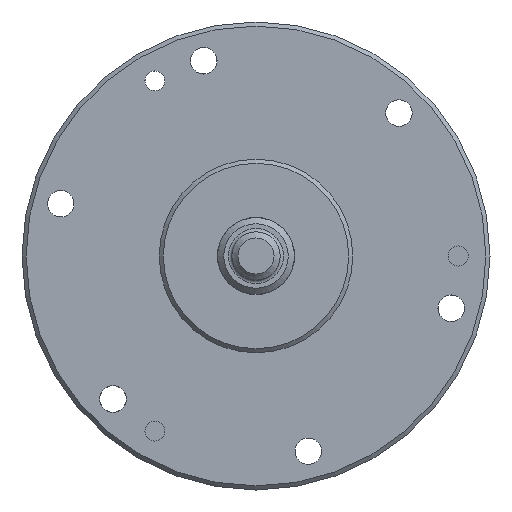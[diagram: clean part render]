
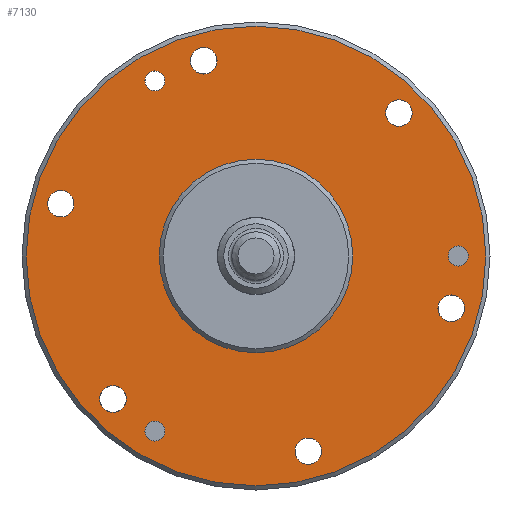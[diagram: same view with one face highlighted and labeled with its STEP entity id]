
A CAD part, left-side view. The second image highlights one B-rep face of the part: STEP entity #7130.
In plain terms, the highlighted planar face has unit normal (-1, 0, 0).
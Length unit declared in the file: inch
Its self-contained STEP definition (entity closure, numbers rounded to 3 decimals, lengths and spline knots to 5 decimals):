
#388=FACE_BOUND('',#1046,.T.);
#389=FACE_BOUND('',#1047,.T.);
#390=FACE_BOUND('',#1048,.T.);
#391=FACE_BOUND('',#1049,.T.);
#392=FACE_BOUND('',#1050,.T.);
#393=FACE_BOUND('',#1051,.T.);
#394=FACE_BOUND('',#1052,.T.);
#395=FACE_BOUND('',#1053,.T.);
#396=FACE_BOUND('',#1054,.T.);
#397=FACE_BOUND('',#1055,.T.);
#602=FACE_OUTER_BOUND('',#1045,.T.);
#1045=EDGE_LOOP('',(#5500));
#1046=EDGE_LOOP('',(#5501));
#1047=EDGE_LOOP('',(#5502));
#1048=EDGE_LOOP('',(#5503));
#1049=EDGE_LOOP('',(#5504));
#1050=EDGE_LOOP('',(#5505));
#1051=EDGE_LOOP('',(#5506));
#1052=EDGE_LOOP('',(#5507));
#1053=EDGE_LOOP('',(#5508));
#1054=EDGE_LOOP('',(#5509));
#1055=EDGE_LOOP('',(#5510));
#1397=CIRCLE('',#7567,0.06425);
#1401=CIRCLE('',#7573,0.06425);
#1405=CIRCLE('',#7579,0.06425);
#1407=CIRCLE('',#7582,0.06509);
#1409=CIRCLE('',#7585,0.06509);
#1411=CIRCLE('',#7588,0.06509);
#1413=CIRCLE('',#7591,0.04878);
#1415=CIRCLE('',#7594,0.04878);
#1417=CIRCLE('',#7597,0.04878);
#1437=CIRCLE('',#7627,1.12);
#1438=CIRCLE('',#7629,0.4715);
#3008=VERTEX_POINT('',#13429);
#3012=VERTEX_POINT('',#13441);
#3016=VERTEX_POINT('',#13453);
#3018=VERTEX_POINT('',#13459);
#3020=VERTEX_POINT('',#13465);
#3022=VERTEX_POINT('',#13471);
#3024=VERTEX_POINT('',#13477);
#3026=VERTEX_POINT('',#13483);
#3028=VERTEX_POINT('',#13489);
#3046=VERTEX_POINT('',#13543);
#3047=VERTEX_POINT('',#13547);
#3910=EDGE_CURVE('',#3008,#3008,#1397,.T.);
#3916=EDGE_CURVE('',#3012,#3012,#1401,.T.);
#3922=EDGE_CURVE('',#3016,#3016,#1405,.T.);
#3925=EDGE_CURVE('',#3018,#3018,#1407,.T.);
#3928=EDGE_CURVE('',#3020,#3020,#1409,.T.);
#3931=EDGE_CURVE('',#3022,#3022,#1411,.T.);
#3934=EDGE_CURVE('',#3024,#3024,#1413,.T.);
#3937=EDGE_CURVE('',#3026,#3026,#1415,.T.);
#3940=EDGE_CURVE('',#3028,#3028,#1417,.T.);
#3967=EDGE_CURVE('',#3046,#3046,#1437,.T.);
#3968=EDGE_CURVE('',#3047,#3047,#1438,.T.);
#5500=ORIENTED_EDGE('',*,*,#3967,.F.);
#5501=ORIENTED_EDGE('',*,*,#3910,.T.);
#5502=ORIENTED_EDGE('',*,*,#3916,.T.);
#5503=ORIENTED_EDGE('',*,*,#3922,.T.);
#5504=ORIENTED_EDGE('',*,*,#3925,.T.);
#5505=ORIENTED_EDGE('',*,*,#3928,.T.);
#5506=ORIENTED_EDGE('',*,*,#3931,.T.);
#5507=ORIENTED_EDGE('',*,*,#3934,.T.);
#5508=ORIENTED_EDGE('',*,*,#3937,.T.);
#5509=ORIENTED_EDGE('',*,*,#3940,.T.);
#5510=ORIENTED_EDGE('',*,*,#3968,.T.);
#6930=PLANE('',#7628);
#7130=ADVANCED_FACE('',(#602,#388,#389,#390,#391,#392,#393,#394,#395,#396,
#397),#6930,.T.);
#7567=AXIS2_PLACEMENT_3D('',#13430,#8261,#8262);
#7573=AXIS2_PLACEMENT_3D('',#13442,#8275,#8276);
#7579=AXIS2_PLACEMENT_3D('',#13454,#8289,#8290);
#7582=AXIS2_PLACEMENT_3D('',#13460,#8296,#8297);
#7585=AXIS2_PLACEMENT_3D('',#13466,#8303,#8304);
#7588=AXIS2_PLACEMENT_3D('',#13472,#8310,#8311);
#7591=AXIS2_PLACEMENT_3D('',#13478,#8317,#8318);
#7594=AXIS2_PLACEMENT_3D('',#13484,#8324,#8325);
#7597=AXIS2_PLACEMENT_3D('',#13490,#8331,#8332);
#7627=AXIS2_PLACEMENT_3D('',#13545,#8398,#8399);
#7628=AXIS2_PLACEMENT_3D('',#13546,#8400,#8401);
#7629=AXIS2_PLACEMENT_3D('',#13548,#8402,#8403);
#8261=DIRECTION('center_axis',(1.,0.,0.));
#8262=DIRECTION('ref_axis',(0.,-1.,0.));
#8275=DIRECTION('center_axis',(1.,0.,0.));
#8276=DIRECTION('ref_axis',(0.,-1.,0.));
#8289=DIRECTION('center_axis',(1.,0.,0.));
#8290=DIRECTION('ref_axis',(0.,-1.,0.));
#8296=DIRECTION('center_axis',(1.,0.,0.));
#8297=DIRECTION('ref_axis',(0.,-1.,0.));
#8303=DIRECTION('center_axis',(1.,0.,0.));
#8304=DIRECTION('ref_axis',(0.,-1.,0.));
#8310=DIRECTION('center_axis',(1.,0.,0.));
#8311=DIRECTION('ref_axis',(0.,-1.,0.));
#8317=DIRECTION('center_axis',(1.,0.,0.));
#8318=DIRECTION('ref_axis',(0.,-1.,0.));
#8324=DIRECTION('center_axis',(1.,0.,0.));
#8325=DIRECTION('ref_axis',(0.,-1.,0.));
#8331=DIRECTION('center_axis',(1.,0.,0.));
#8332=DIRECTION('ref_axis',(0.,-1.,0.));
#8398=DIRECTION('center_axis',(1.,0.,0.));
#8399=DIRECTION('ref_axis',(0.,-1.,0.));
#8400=DIRECTION('center_axis',(-1.,0.,0.));
#8401=DIRECTION('ref_axis',(0.,0.,1.));
#8402=DIRECTION('center_axis',(1.,0.,0.));
#8403=DIRECTION('ref_axis',(0.,0.,-1.));
#13429=CARTESIAN_POINT('',(0.08,-0.63225,0.6965));
#13430=CARTESIAN_POINT('Origin',(0.08,-0.6965,
0.6965));
#13441=CARTESIAN_POINT('',(0.08,1.01569,0.25494));
#13442=CARTESIAN_POINT('Origin',(0.08,0.95144,0.25494));
#13453=CARTESIAN_POINT('',(0.08,-0.19069,-0.95144));
#13454=CARTESIAN_POINT('Origin',(0.08,-0.25494,
-0.95144));
#13459=CARTESIAN_POINT('',(0.08,0.32003,0.95144));
#13460=CARTESIAN_POINT('Origin',(0.08,0.25494,0.95144));
#13465=CARTESIAN_POINT('',(0.08,0.76159,-0.6965));
#13466=CARTESIAN_POINT('Origin',(0.08,0.6965,-0.6965));
#13471=CARTESIAN_POINT('',(0.08,-0.88635,-0.25494));
#13472=CARTESIAN_POINT('Origin',(0.08,-0.95144,
-0.25494));
#13477=CARTESIAN_POINT('',(0.08,0.54128,0.85304));
#13478=CARTESIAN_POINT('Origin',(0.08,0.4925,0.85304));
#13483=CARTESIAN_POINT('',(0.08,0.54128,-0.85304));
#13484=CARTESIAN_POINT('Origin',(0.08,0.4925,-0.85304));
#13489=CARTESIAN_POINT('',(0.08,-0.93622,0.));
#13490=CARTESIAN_POINT('Origin',(0.08,-0.985,0.));
#13543=CARTESIAN_POINT('',(0.08,1.12,0.));
#13545=CARTESIAN_POINT('Origin',(0.08,0.,0.));
#13546=CARTESIAN_POINT('Origin',(0.08,1.14,0.));
#13547=CARTESIAN_POINT('',(0.08,-0.4715,0.));
#13548=CARTESIAN_POINT('Origin',(0.08,0.,0.));
